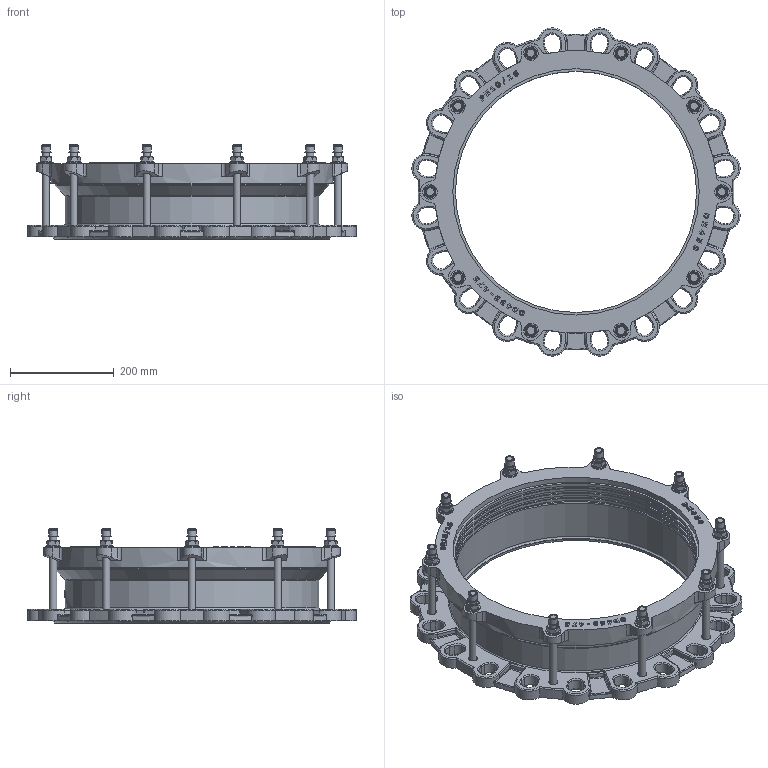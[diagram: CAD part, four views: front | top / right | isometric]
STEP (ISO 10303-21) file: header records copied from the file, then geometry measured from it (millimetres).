
FILE_DESCRIPTION(('STEP AP203'), '1');
FILE_NAME('Ôëàíöåâûé àäàïòåð', '', ('UNSPECIFIED'), ('UNSPECIFIED'), 'C3D Converter', 'C3D Toolkit', '');
FILE_SCHEMA(('CONFIG_CONTROL_DESIGN'));
Length unit declared in the file: millimetre
Assembly tree (43 placements, depth 2):
  (unnamed)
    (unnamed)
    (unnamed)  x10
    (unnamed)  x10
    (unnamed)  x10
    (unnamed)  x10
    (unnamed)
    (unnamed)
Bounding box: 632.8 x 632.8 x 181.4 mm (x, y, z)
Volume: 6391768.8 mm3; surface area: 1306712.9 mm2
Topology: 43 solids, 43 shells, 1788 faces, 4442 edges, 2670 vertices
Faces by surface type: plane 602, cylinder 517, extrusion 274, torus 181, bspline 80, cone 74, sphere 60
Full cylindrical faces by diameter (mm): 13.478 x1, 14 x30, 15 x10, 16 x20, 16.8 x10, 19.6 x10, 28 x10, 465 x5, 470 x3, 475 x2, 482 x1, 489 x2, 527.5 x1, 531 x2, 545 x1
Entity records: 64375 total; most frequent: CARTESIAN_POINT 26273, ORIENTED_EDGE 7028, DIRECTION 6358, EDGE_CURVE 3514, AXIS2_PLACEMENT_3D 2277, VERTEX_POINT 2202, VECTOR 1804, EDGE_LOOP 1638
